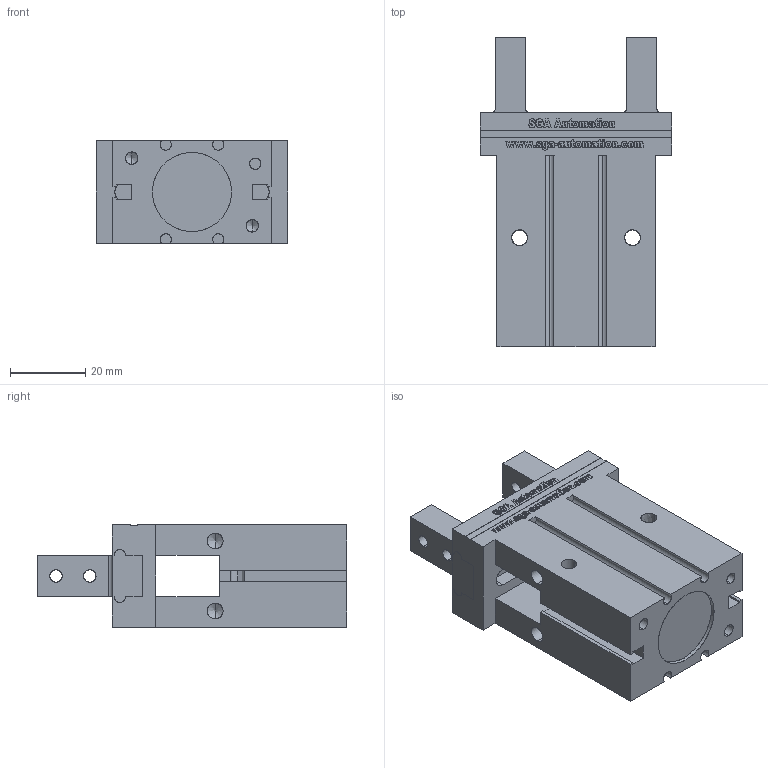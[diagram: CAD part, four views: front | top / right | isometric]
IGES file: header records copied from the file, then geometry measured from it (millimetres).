
Start section: SolidWorks IGES file using analytic representation for surfaces
Global section: file name: F:\Convertie\igs\GDZ 20 ouvert.IGS; native system: SolidWorks 2014; preprocessor: SolidWorks 2014; author: adminlocal; date: 141222.160427; units: millimetre
Bounding box: 51 x 82.3 x 27.2 mm (x, y, z)
Surface area: 21399.7 mm2 (no closed solid volume)
Topology: 0 solids, 0 shells, 1239 faces, 14386 edges, 14374 vertices
Faces by surface type: bspline 1166, revolution 73
